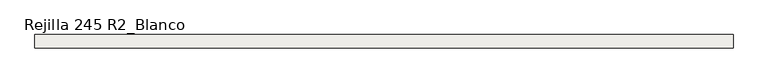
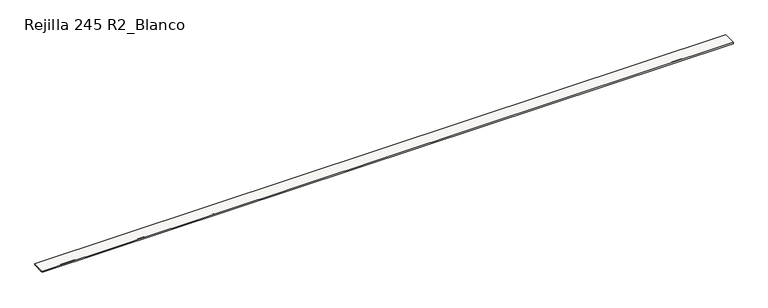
"""IFC4 building model written with IfcOpenShell, lengths in millimetres: slab geometry, ROSA GRES_245 R2 : Rejilla 245 R2_Blanco."""

from ifc_helpers import new_model, si_unit, frame, origin, place, context, project, spatial, polyline, outline, extrude, source, transform, mapped, element, save


def rejilla_245_r2_blanco_04bee66e(model_context):
    return source(origin(), model_context, "Body", "SweptSolid", [
        extrude(outline(polyline([(-369.5908797, 206.3460936), (-411.8675475, 206.3460936), (-422.8675475, 195.3460936), (-561.3142119, 195.3460936), (-572.3142119, 206.3460936), (-614.5908797, 206.3460936), (-614.5908797, 228.3460936), (-369.5908797, 228.3460936), (-369.5908797, 206.3460936)])), frame((0.0, 0.0, 0.0), z_axis=(1.0, 0.0, 0.0), x_axis=(0.0, 1.0, 0.0)), (0.0, 0.0, 1.0), 12904.1817594),
    ])


if __name__ == "__main__":
    model = new_model("IFC4")
    model_context = context("Model", 3, world=origin())
    ifc_project = project(units=[si_unit("LENGTHUNIT", "METRE", prefix="MILLI")], contexts=[model_context])
    site = spatial("IfcSite", under=ifc_project)
    building = spatial("IfcBuilding", under=site)
    placement = place(None, origin())
    rejilla_245_r2_blanco_shape = rejilla_245_r2_blanco_04bee66e(model_context)
    element("IfcSlab", 1, ObjectType="ROSA GRES_245 R2 : Rejilla 245 R2_Blanco", at=placement, inside=building, context=model_context, shape_type="MappedRepresentation", body=[
        mapped(rejilla_245_r2_blanco_shape, transform((0.0, 0.0, 0.0), x_axis=(1.0, 0.0, 0.0), y_axis=(0.0, 1.0, 0.0), z_axis=(0.0, 0.0, 1.0))),
    ])
    save(model, "model.ifc")
